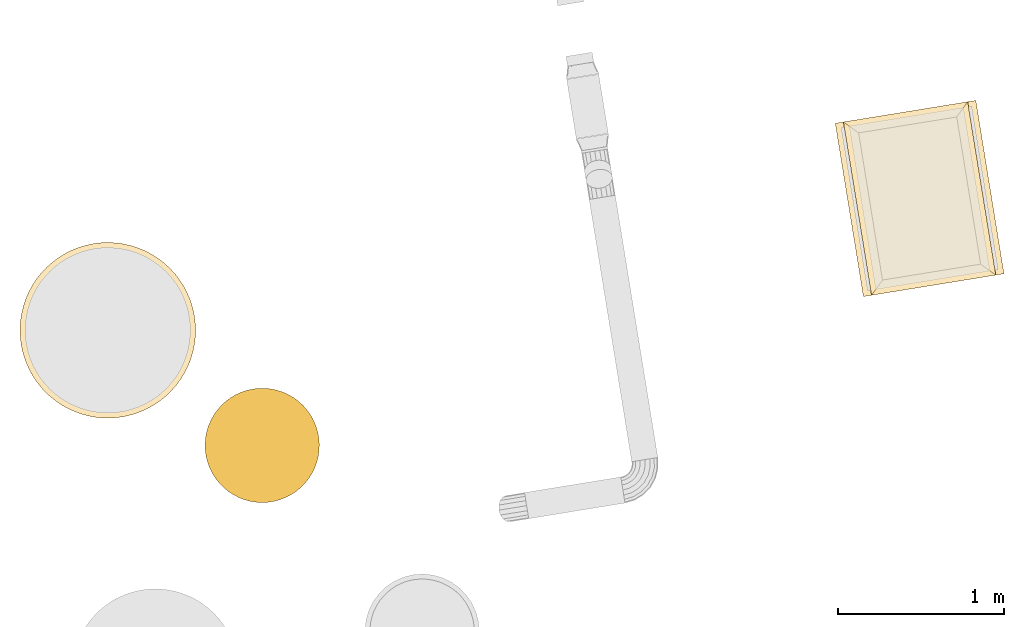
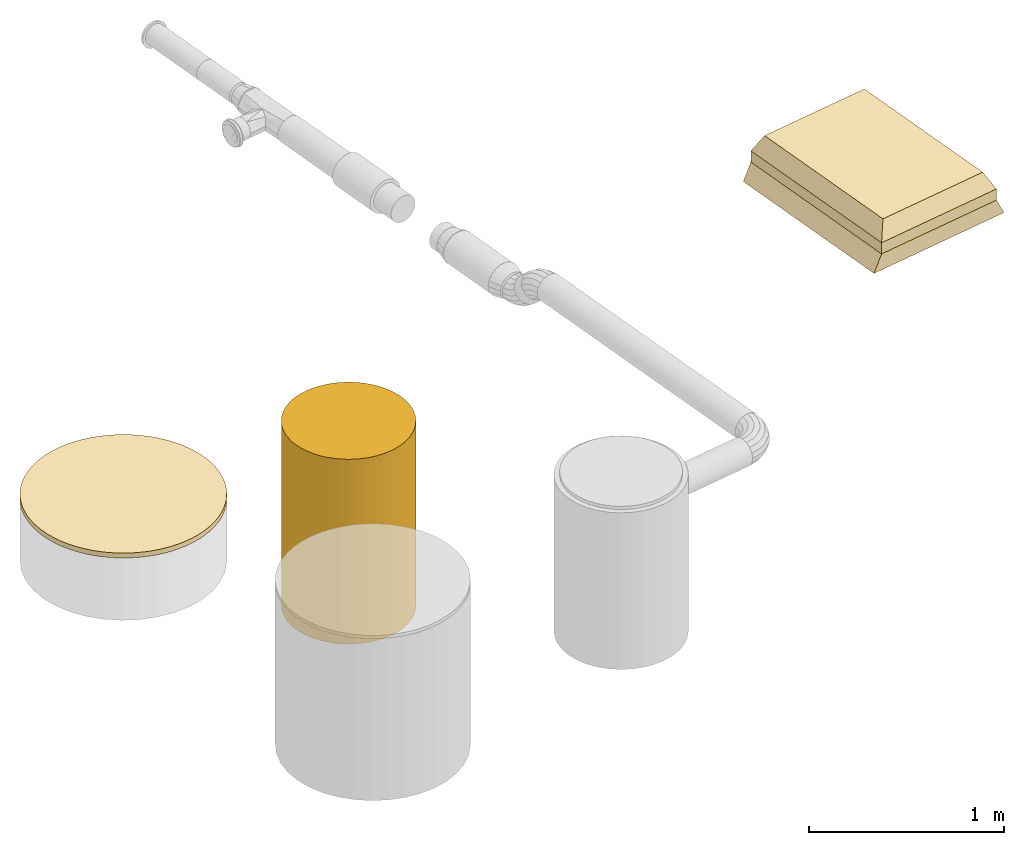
# One storey, part 1 of 6: 5 coverings.
"""IFC2X3 building model written with IfcOpenShell, lengths in millimetres."""

from ifc_helpers import new_model, entity, si_unit, converted_unit, derived_unit, direction, frame, frame_2d, origin, origin_with_axes, origin_2d_with_axis, place, context, subcontext, project, spatial, rectangle, circle, extrude, faceted_brep, type_object, element, save


model = new_model("IFC2X3")

# Units and contexts
plan_context = context("Plan", 3, precision=1e-05, world=origin_with_axes())
model_context = context("Model", 3, precision=0.01, world=origin(), true_north=direction((6.12323399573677e-17, 1.0)))
body_context = subcontext(model_context, "Body", "Model", "MODEL_VIEW")
ifc_project = project(units=[converted_unit("PLANEANGLEUNIT", "DEGREE", entity("IfcPositiveLengthMeasure", 0.0174532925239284), si_unit("PLANEANGLEUNIT", "RADIAN"), dimensions=[0, 0, 0, 0, 0, 0, 0]), si_unit("AREAUNIT", "SQUARE_METRE"), si_unit("LENGTHUNIT", "METRE", prefix="MILLI"), si_unit("MASSUNIT", "GRAM", prefix="KILO"), si_unit("POWERUNIT", "WATT"), si_unit("PRESSUREUNIT", "PASCAL", prefix="KILO"), si_unit("FORCEUNIT", "NEWTON", prefix="KILO"), si_unit("ELECTRICVOLTAGEUNIT", "VOLT"), si_unit("ELECTRICCURRENTUNIT", "AMPERE"), si_unit("THERMODYNAMICTEMPERATUREUNIT", "DEGREE_CELSIUS"), si_unit("TIMEUNIT", "SECOND"), si_unit("VOLUMEUNIT", "CUBIC_METRE"), derived_unit("LINEARVELOCITYUNIT", [(si_unit("LENGTHUNIT", "METRE"), 1), (si_unit("TIMEUNIT", "SECOND"), -1)]), derived_unit("VOLUMETRICFLOWRATEUNIT", [(si_unit("VOLUMEUNIT", "CUBIC_METRE"), 1), (si_unit("TIMEUNIT", "SECOND"), -1)]), derived_unit("THERMALTRANSMITTANCEUNIT", [(si_unit("POWERUNIT", "WATT"), 1), (si_unit("THERMODYNAMICTEMPERATUREUNIT", "KELVIN"), -1), (si_unit("AREAUNIT", "SQUARE_METRE"), -1)]), derived_unit("SOUNDPRESSUREUNIT", [(si_unit("PRESSUREUNIT", "PASCAL"), 1)])], contexts=[model_context, plan_context])

# Site, building, storey
site_placement = place(None, frame((-0.00071070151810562, 0.00438415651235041, 0.0), z_axis=(0.0, 0.0, 1.0), x_axis=(-0.160236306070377, 0.987078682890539, 0.0)))
site = spatial("IfcSite", under=ifc_project, at=site_placement, Name="Default", CompositionType="ELEMENT")
building_placement = place(site_placement, origin_with_axes())
building = spatial("IfcBuilding", under=site, at=building_placement, CompositionType="ELEMENT")
storey_placement = place(building_placement, frame((0.0, 0.0, 55630.0), z_axis=(0.0, 0.0, 1.0), x_axis=(1.0, 0.0, 0.0)))
storey = spatial("IfcBuildingStorey", under=building, at=storey_placement, Name="Nivå E", CompositionType="ELEMENT", Elevation=55630.0)

# Coverings
covering_type = type_object("IfcCoveringType", Name="Duct Insulation:EI 120-60", PredefinedType="INSULATION")
covering_1_placement = place(storey_placement, origin_with_axes())
element("IfcCovering", 1, at=covering_1_placement, inside=storey, type_object=covering_type, Name="Duct Insulation:EI 120-60", ObjectType="Duct Insulation:EI 120-60", PredefinedType="INSULATION", context=body_context, shape_type="SweptSolid", body=[
    extrude(circle(Radius=345.0, at=frame_2d((0.0, 6.93034962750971e-11), x_axis=(1.0, 0.0))), frame((765132.590423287, -502496.834704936, 2187.5)), (0.0, 0.0, 1.0), 1155.64752512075),
])
covering_2_placement = place(storey_placement, origin_with_axes())
element("IfcCovering", 2, at=covering_2_placement, inside=storey, type_object=covering_type, Name="Duct Insulation:EI 120-60", ObjectType="Duct Insulation:EI 120-60", PredefinedType="INSULATION", context=body_context, shape_type="SweptSolid", body=[
    extrude(circle(Radius=530.00000000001, at=frame_2d((0.0, -6.93034962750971e-11), x_axis=(1.0, 0.0))), frame((765967.619644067, -501688.383412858, 2760.0)), (0.0, 0.0, 1.0), 30.8000000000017),
])
covering_3_placement = place(storey_placement, origin_with_axes())
element("IfcCovering", 3, at=covering_3_placement, inside=storey, type_object=covering_type, Name="Duct Insulation:EI 120-60", ObjectType="Duct Insulation:EI 120-60", PredefinedType="INSULATION", context=body_context, shape_type="SweptSolid", body=[
    extrude(rectangle(XDim=759.999999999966, YDim=1060.00000000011, at=origin_2d_with_axis()), frame((765967.619644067, -506652.480498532, 2550.0), z_axis=(0.0, 0.0, 1.0), x_axis=(-4.56126432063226e-09, -1.0, 0.0)), (0.0, 0.0, 1.0), 69.9999999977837),
])
covering_4_placement = place(storey_placement, frame((765437.619644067, -507082.480498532, 2450.0), z_axis=(0.0, 0.0, 1.0), x_axis=(1.0, 0.0, 0.0)))
element("IfcCovering", 4, at=covering_4_placement, inside=storey, type_object=covering_type, Name="Duct Insulation:EI 120-60", ObjectType="Duct Insulation:EI 120-60", PredefinedType="INSULATION", context=body_context, shape_type="Brep", body=[
    faceted_brep([(1060.0, 810.0, 100.0), (0.0, 810.0, 100.0), (0.0, 50.0, 100.0), (1060.0, 50.0, 100.0), (1060.0, 860.0, 0.0), (1060.0, 0.0, 0.0), (0.0, 0.0, 0.0), (0.0, 860.0, 0.0)], [[[0, 1, 2, 3]], [[4, 5, 6, 7]], [[4, 7, 1, 0]], [[7, 6, 2, 1]], [[6, 5, 3, 2]], [[5, 4, 0, 3]]]),
])
covering_5_placement = place(storey_placement, frame((765437.619642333, -507032.48050095, 2619.99999999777), z_axis=(0.0, 0.0, 1.0), x_axis=(1.0, 0.0, 0.0)))
element("IfcCovering", 5, at=covering_5_placement, inside=storey, type_object=covering_type, Name="Duct Insulation:EI 120-60", ObjectType="Duct Insulation:EI 120-60", PredefinedType="INSULATION", context=body_context, shape_type="Brep", body=[
    faceted_brep([(1010.0000032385, 710.00000022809, 100.0), (50.0000032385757, 710.0000046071, 100.0), (50.0000002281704, 50.0000046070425, 100.0), (1010.00000022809, 50.0000002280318, 100.0), (1060.00000346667, 760.0, 0.0), (1060.0, 0.0, 0.0), (0.0, 4.83516632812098e-06, 0.0), (3.46656088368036e-06, 760.000004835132, 0.0)], [[[0, 1, 2, 3]], [[4, 5, 6, 7]], [[4, 7, 1, 0]], [[7, 6, 2, 1]], [[6, 5, 3, 2]], [[5, 4, 0, 3]]]),
])

save(model, "model.ifc")
